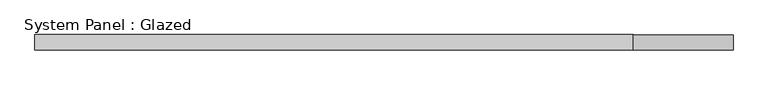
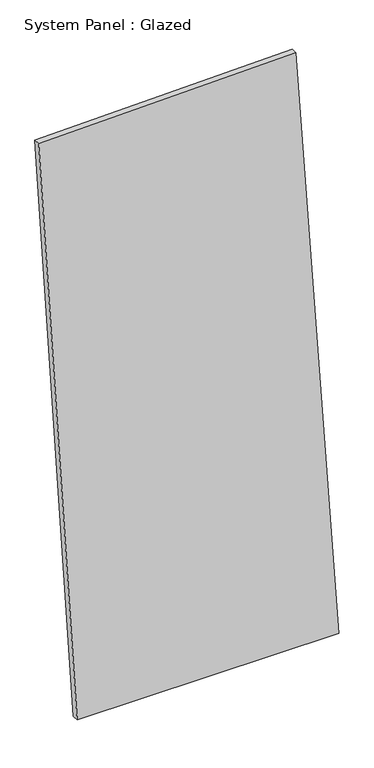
"""IFC4 building model written with IfcOpenShell, lengths in millimetres: plate geometry, System Panel : Glazed."""

from ifc_helpers import new_model, si_unit, frame, origin, place, context, project, spatial, polyline, outline, extrude, source, transform, mapped, element, save


def system_panel_glazed_35f86fc2(model_context):
    return source(origin(), model_context, "Body", "SweptSolid", [
        extrude(outline(polyline([(0.0, -426.6670645), (0.0, 573.5435445), (2406.3967433, 409.8352117), (2382.2453326, -573.5435445), (0.0, -426.6670645)])), frame((0.0, -49.5, 0.0), z_axis=(0.0, 1.0, 0.0), x_axis=(0.0, 0.0, 1.0)), (0.0, 0.0, 1.0), 25.0),
    ])


if __name__ == "__main__":
    model = new_model("IFC4")
    model_context = context("Model", 3, world=origin())
    ifc_project = project(units=[si_unit("LENGTHUNIT", "METRE", prefix="MILLI")], contexts=[model_context])
    site = spatial("IfcSite", under=ifc_project)
    building = spatial("IfcBuilding", under=site)
    placement = place(None, origin())
    system_panel_glazed_shape = system_panel_glazed_35f86fc2(model_context)
    element("IfcPlate", 1, ObjectType="System Panel : Glazed", at=placement, inside=building, context=model_context, shape_type="MappedRepresentation", body=[
        mapped(system_panel_glazed_shape, transform((0.0, 0.0, 0.0), x_axis=(1.0, 0.0, 0.0), y_axis=(0.0, 1.0, 0.0), z_axis=(0.0, 0.0, 1.0))),
    ])
    save(model, "model.ifc")
